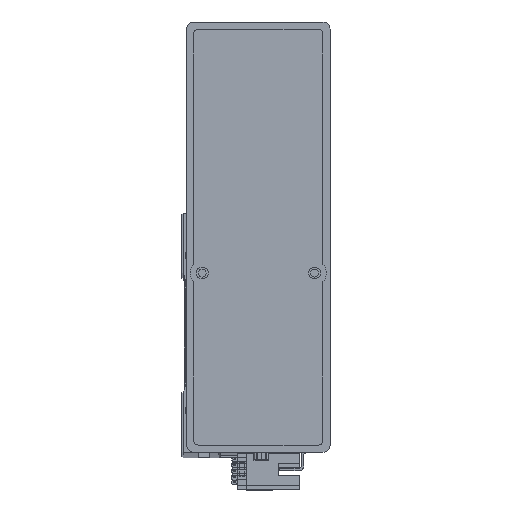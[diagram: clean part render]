
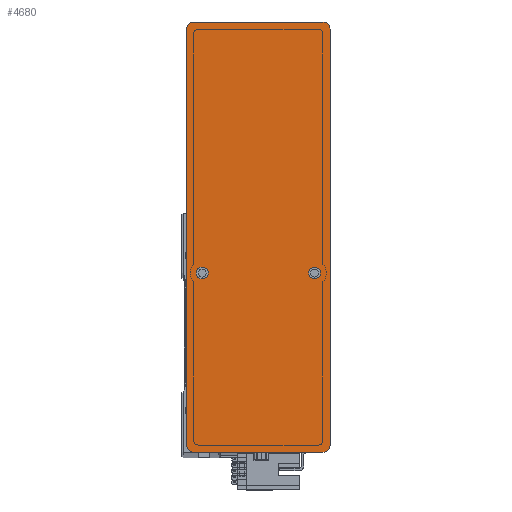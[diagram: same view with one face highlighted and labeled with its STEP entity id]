
A CAD part, top view. The second image highlights one B-rep face of the part: STEP entity #4680.
In plain terms, the highlighted planar face has unit normal (0, 0, 1) as drawn and (0, 0, -1) by its records, which use the part's own axes.
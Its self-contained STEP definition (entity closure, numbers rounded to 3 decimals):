
#426 = VERTEX_POINT ( 'NONE', #36494 ) ;
#460 = EDGE_CURVE ( 'NONE', #15136, #45339, #31044, .T. ) ;
#973 = DIRECTION ( 'NONE',  ( 1., 0., 0. ) ) ;
#2681 = AXIS2_PLACEMENT_3D ( 'NONE', #33318, #9422, #37354 ) ;
#3099 = VERTEX_POINT ( 'NONE', #43108 ) ;
#4440 = DIRECTION ( 'NONE',  ( 0., 0., -1. ) ) ;
#4680 = ADVANCED_FACE ( 'NONE', ( #7055, #8308, #37652 ), #13844, .F. ) ;
#4914 = CARTESIAN_POINT ( 'NONE',  ( 87., -27., 0. ) ) ;
#4916 = VERTEX_POINT ( 'NONE', #31271 ) ;
#5998 = DIRECTION ( 'NONE',  ( 0., 0., 1. ) ) ;
#6336 = CARTESIAN_POINT ( 'NONE',  ( -12.5, 23.5, 0. ) ) ;
#6938 = LINE ( 'NONE', #16224, #25677 ) ;
#7055 = FACE_BOUND ( 'NONE', #25237, .T. ) ;
#7278 = DIRECTION ( 'NONE',  ( 0., 0., -1. ) ) ;
#7912 = EDGE_CURVE ( 'NONE', #33267, #24241, #48776, .T. ) ;
#8132 = ORIENTED_EDGE ( 'NONE', *, *, #40205, .T. ) ;
#8308 = FACE_BOUND ( 'NONE', #11280, .T. ) ;
#8747 = CARTESIAN_POINT ( 'NONE',  ( -15., -23.5, 0. ) ) ;
#8927 = DIRECTION ( 'NONE',  ( 1., 0., 0. ) ) ;
#9228 = ORIENTED_EDGE ( 'NONE', *, *, #7912, .F. ) ;
#9422 = DIRECTION ( 'NONE',  ( 0., 0., -1. ) ) ;
#9984 = DIRECTION ( 'NONE',  ( 0., 0., -1. ) ) ;
#10107 = DIRECTION ( 'NONE',  ( -1., 0., 0. ) ) ;
#11280 = EDGE_LOOP ( 'NONE', ( #43452, #15632 ) ) ;
#12357 = VERTEX_POINT ( 'NONE', #6336 ) ;
#12728 = VERTEX_POINT ( 'NONE', #30166 ) ;
#12754 = DIRECTION ( 'NONE',  ( -1., 0., 0. ) ) ;
#13844 = PLANE ( 'NONE',  #49082 ) ;
#13930 = ORIENTED_EDGE ( 'NONE', *, *, #49146, .F. ) ;
#15136 = VERTEX_POINT ( 'NONE', #23559 ) ;
#15632 = ORIENTED_EDGE ( 'NONE', *, *, #460, .F. ) ;
#16224 = CARTESIAN_POINT ( 'NONE',  ( -90., -30., 0. ) ) ;
#16638 = ORIENTED_EDGE ( 'NONE', *, *, #25379, .T. ) ;
#16994 = EDGE_CURVE ( 'NONE', #12357, #27753, #30051, .T. ) ;
#18541 = CARTESIAN_POINT ( 'NONE',  ( -87., -30., 0. ) ) ;
#19105 = ORIENTED_EDGE ( 'NONE', *, *, #34779, .T. ) ;
#19953 = ORIENTED_EDGE ( 'NONE', *, *, #22972, .F. ) ;
#20748 = CARTESIAN_POINT ( 'NONE',  ( 87., -30., 0. ) ) ;
#20873 = CIRCLE ( 'NONE', #25043, 3. ) ;
#20884 = CARTESIAN_POINT ( 'NONE',  ( 90., -30., 0. ) ) ;
#21114 = EDGE_CURVE ( 'NONE', #3099, #426, #47481, .T. ) ;
#21446 = AXIS2_PLACEMENT_3D ( 'NONE', #31154, #7278, #35196 ) ;
#21754 = DIRECTION ( 'NONE',  ( 0., 0., -1. ) ) ;
#22338 = DIRECTION ( 'NONE',  ( 0., 0., -1. ) ) ;
#22972 = EDGE_CURVE ( 'NONE', #41337, #426, #44068, .T. ) ;
#23271 = CIRCLE ( 'NONE', #37672, 2.5 ) ;
#23559 = CARTESIAN_POINT ( 'NONE',  ( -12.5, -23.5, 0. ) ) ;
#24241 = VERTEX_POINT ( 'NONE', #20748 ) ;
#24678 = EDGE_LOOP ( 'NONE', ( #34171, #19105, #9228, #8132, #46409, #42736, #19953, #16638 ) ) ;
#25043 = AXIS2_PLACEMENT_3D ( 'NONE', #28340, #4440, #32362 ) ;
#25237 = EDGE_LOOP ( 'NONE', ( #13930, #40814 ) ) ;
#25379 = EDGE_CURVE ( 'NONE', #41337, #12728, #20873, .T. ) ;
#25677 = VECTOR ( 'NONE', #40120, 1000. ) ;
#25893 = CARTESIAN_POINT ( 'NONE',  ( 0., 0., 0. ) ) ;
#26041 = CARTESIAN_POINT ( 'NONE',  ( 90., -30., 0. ) ) ;
#26778 = CARTESIAN_POINT ( 'NONE',  ( 87., 30., 0. ) ) ;
#26908 = AXIS2_PLACEMENT_3D ( 'NONE', #33896, #9984, #37908 ) ;
#27753 = VERTEX_POINT ( 'NONE', #50680 ) ;
#28194 = LINE ( 'NONE', #26041, #49507 ) ;
#28340 = CARTESIAN_POINT ( 'NONE',  ( 87., 27., 0. ) ) ;
#30051 = CIRCLE ( 'NONE', #36776, 2.5 ) ;
#30166 = CARTESIAN_POINT ( 'NONE',  ( 90., 27., 0. ) ) ;
#30707 = CIRCLE ( 'NONE', #26908, 2.5 ) ;
#31044 = CIRCLE ( 'NONE', #36242, 2.5 ) ;
#31154 = CARTESIAN_POINT ( 'NONE',  ( -87., -27., 0. ) ) ;
#31271 = CARTESIAN_POINT ( 'NONE',  ( 90., -27., 0. ) ) ;
#32148 = VECTOR ( 'NONE', #10107, 1000. ) ;
#32362 = DIRECTION ( 'NONE',  ( 1., 0., 0. ) ) ;
#32831 = DIRECTION ( 'NONE',  ( 0., 0., -1. ) ) ;
#33267 = VERTEX_POINT ( 'NONE', #18541 ) ;
#33318 = CARTESIAN_POINT ( 'NONE',  ( -87., 27., 0. ) ) ;
#33797 = EDGE_CURVE ( 'NONE', #45339, #15136, #23271, .T. ) ;
#33896 = CARTESIAN_POINT ( 'NONE',  ( -15., 23.5, 0. ) ) ;
#33918 = CIRCLE ( 'NONE', #21446, 3. ) ;
#33931 = DIRECTION ( 'NONE',  ( 1., 0., 0. ) ) ;
#34171 = ORIENTED_EDGE ( 'NONE', *, *, #43139, .F. ) ;
#34779 = EDGE_CURVE ( 'NONE', #4916, #24241, #38681, .T. ) ;
#35196 = DIRECTION ( 'NONE',  ( 1., 0., 0. ) ) ;
#35396 = AXIS2_PLACEMENT_3D ( 'NONE', #4914, #32831, #8927 ) ;
#36242 = AXIS2_PLACEMENT_3D ( 'NONE', #8747, #36674, #12754 ) ;
#36494 = CARTESIAN_POINT ( 'NONE',  ( -87., 30., 0. ) ) ;
#36674 = DIRECTION ( 'NONE',  ( 0., 0., -1. ) ) ;
#36776 = AXIS2_PLACEMENT_3D ( 'NONE', #45666, #21754, #49699 ) ;
#37354 = DIRECTION ( 'NONE',  ( 1., 0., 0. ) ) ;
#37652 = FACE_OUTER_BOUND ( 'NONE', #24678, .T. ) ;
#37672 = AXIS2_PLACEMENT_3D ( 'NONE', #46255, #22338, #50282 ) ;
#37908 = DIRECTION ( 'NONE',  ( -1., 0., 0. ) ) ;
#38545 = EDGE_CURVE ( 'NONE', #3099, #49613, #6938, .T. ) ;
#38681 = CIRCLE ( 'NONE', #35396, 3. ) ;
#40120 = DIRECTION ( 'NONE',  ( 0., -1., 0. ) ) ;
#40205 = EDGE_CURVE ( 'NONE', #33267, #49613, #33918, .T. ) ;
#40814 = ORIENTED_EDGE ( 'NONE', *, *, #16994, .F. ) ;
#41337 = VERTEX_POINT ( 'NONE', #26778 ) ;
#41967 = DIRECTION ( 'NONE',  ( 0., 1., 0. ) ) ;
#42736 = ORIENTED_EDGE ( 'NONE', *, *, #21114, .T. ) ;
#43108 = CARTESIAN_POINT ( 'NONE',  ( -90., 27., 0. ) ) ;
#43139 = EDGE_CURVE ( 'NONE', #4916, #12728, #28194, .T. ) ;
#43452 = ORIENTED_EDGE ( 'NONE', *, *, #33797, .F. ) ;
#44068 = LINE ( 'NONE', #45911, #32148 ) ;
#45339 = VERTEX_POINT ( 'NONE', #48649 ) ;
#45666 = CARTESIAN_POINT ( 'NONE',  ( -15., 23.5, 0. ) ) ;
#45911 = CARTESIAN_POINT ( 'NONE',  ( 90., 30., 0. ) ) ;
#46255 = CARTESIAN_POINT ( 'NONE',  ( -15., -23.5, 0. ) ) ;
#46409 = ORIENTED_EDGE ( 'NONE', *, *, #38545, .F. ) ;
#47481 = CIRCLE ( 'NONE', #2681, 3. ) ;
#47523 = VECTOR ( 'NONE', #973, 1000. ) ;
#48560 = CARTESIAN_POINT ( 'NONE',  ( -90., -27., 0. ) ) ;
#48649 = CARTESIAN_POINT ( 'NONE',  ( -17.5, -23.5, 0. ) ) ;
#48776 = LINE ( 'NONE', #20884, #47523 ) ;
#49082 = AXIS2_PLACEMENT_3D ( 'NONE', #25893, #5998, #33931 ) ;
#49146 = EDGE_CURVE ( 'NONE', #27753, #12357, #30707, .T. ) ;
#49507 = VECTOR ( 'NONE', #41967, 1000. ) ;
#49613 = VERTEX_POINT ( 'NONE', #48560 ) ;
#49699 = DIRECTION ( 'NONE',  ( -1., 0., 0. ) ) ;
#50282 = DIRECTION ( 'NONE',  ( -1., 0., 0. ) ) ;
#50680 = CARTESIAN_POINT ( 'NONE',  ( -17.5, 23.5, 0. ) ) ;
